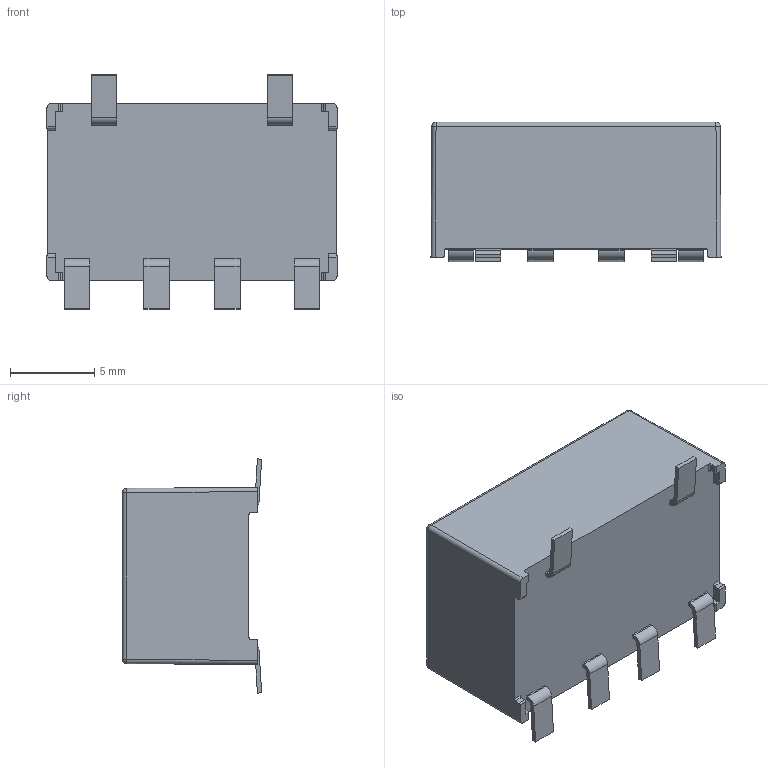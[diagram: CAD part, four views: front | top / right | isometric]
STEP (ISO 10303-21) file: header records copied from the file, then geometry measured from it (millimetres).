
FILE_DESCRIPTION (( 'STEP AP203' ), '1' );
FILE_NAME ('219-2-A Website Model.STEP', '2024-04-10T11:19:46', ( '' ), ( '' ), 'SwSTEP 2.0', 'SolidWorks 2023', '' );
FILE_SCHEMA (( 'CONFIG_CONTROL_DESIGN' ));
Length unit declared in the file: millimetre
Products named in the file (1): 219-2-A Website Model
Bounding box: 17.2 x 8.26 x 13.89 mm (x, y, z)
Volume: 1352.8 mm3; surface area: 839.5 mm2
Topology: 1 solids, 1 shells, 255 faces, 636 edges, 404 vertices
Faces by surface type: plane 181, cylinder 36, bspline 34, sphere 4
Entity records: 9155 total; most frequent: CARTESIAN_POINT 3302, ORIENTED_EDGE 1272, DIRECTION 1028, EDGE_CURVE 636, LINE 496, VECTOR 496, VERTEX_POINT 404, EDGE_LOOP 276
